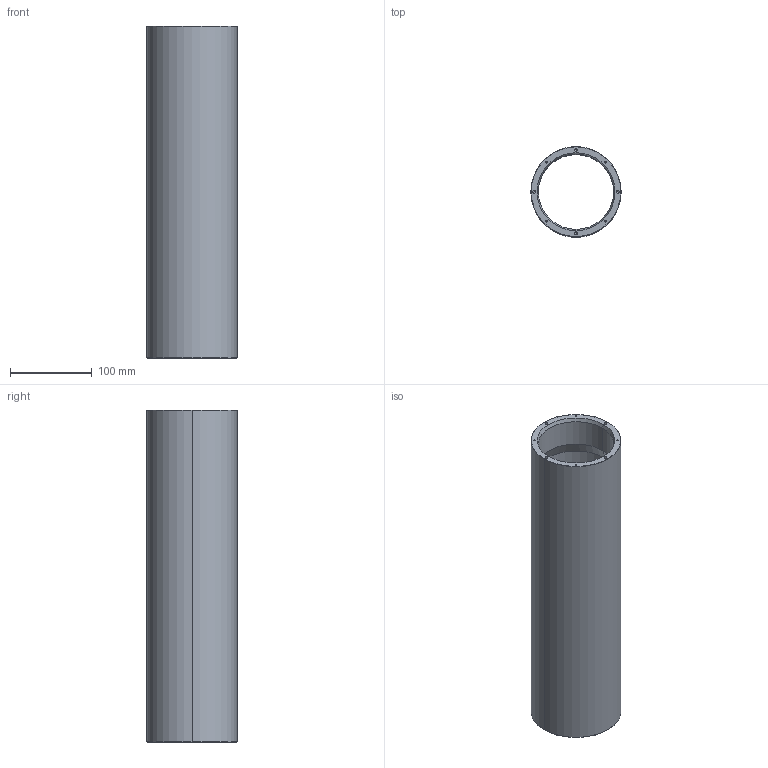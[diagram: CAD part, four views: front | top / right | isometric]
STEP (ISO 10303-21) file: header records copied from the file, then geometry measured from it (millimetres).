
FILE_DESCRIPTION (( 'STEP AP203' ), '1' );
FILE_NAME ('100221903 Housing A Tube_A.STEP', '2023-09-05T23:43:45', ( '' ), ( '' ), 'SwSTEP 2.0', 'SolidWorks 2023', '' );
FILE_SCHEMA (( 'CONFIG_CONTROL_DESIGN' ));
Length unit declared in the file: inch
Products named in the file (1): 100221903 Housing A Tube_A
Bounding box: 110.49 x 110.49 x 406.4 mm (x, y, z)
Volume: 697457.6 mm3; surface area: 275506.5 mm2
Topology: 1 solids, 1 shells, 86 faces, 204 edges, 104 vertices
Faces by surface type: cylinder 40, cone 40, torus 4, plane 2
Entity records: 2315 total; most frequent: DIRECTION 438, CARTESIAN_POINT 363, ORIENTED_EDGE 344, AXIS2_PLACEMENT_3D 179, EDGE_CURVE 172, VERTEX_POINT 104, EDGE_LOOP 104, CIRCLE 92
